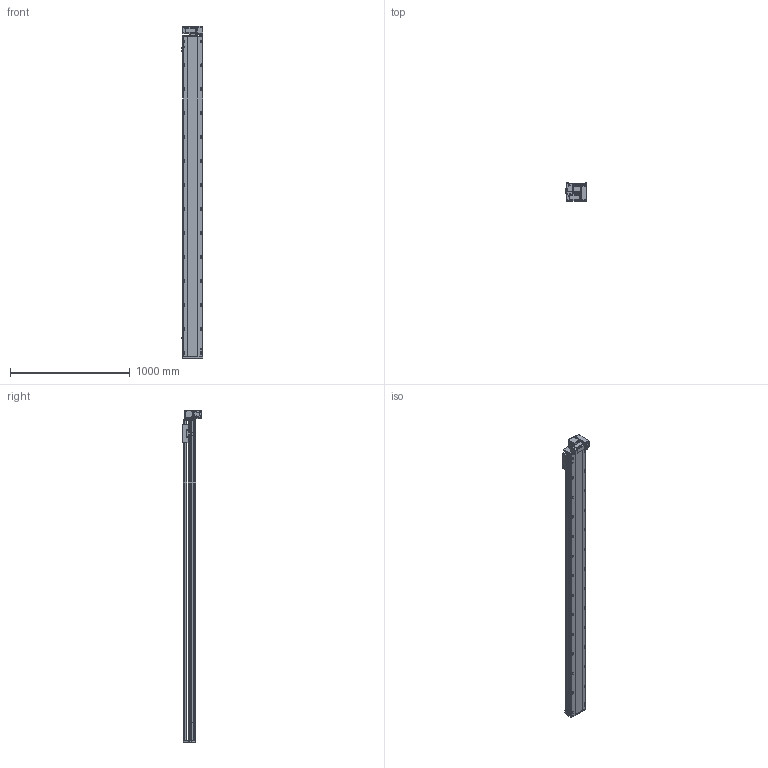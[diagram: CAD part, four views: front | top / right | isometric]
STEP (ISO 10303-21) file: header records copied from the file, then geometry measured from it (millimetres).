
FILE_DESCRIPTION (( 'STEP AP214' ), '1' );
FILE_NAME ('RTB17S-XX-2400-RM-M40-C4.STEP', '2025-12-11T08:29:23', ( '' ), ( '' ), 'SwSTEP 2.0', 'SolidWorks 2018', '' );
FILE_SCHEMA (( 'AUTOMOTIVE_DESIGN' ));
Length unit declared in the file: millimetre
Products named in the file (14): RTH13-BL-012覜茼え俋离^RTB17S-XX-XX-RM-M40-C4; OMRON EE-SX672 传感器^RTB17S-XX-XX-RM-M40-C4; RTB14-L-008-M20--萇儂啣^RTB17S-RM-々湍釱蚾饜-400W_RTB17S-XX-XX-RM-M40-C4; RTB17S-XX-2400-RM-M40-C4; RTB14-L-018P^RTB17S-RM-々湍釱蚾饜-400W_RTB17S-XX-XX-RM-M40-C4; RTB17S-L-007奻裔^RTB17S-XX-XX-RM-M40-C4; RTB17S-L-014-T20--々湍釱^RTB17S-RM-々湍釱蚾饜-400W_RTB17S-XX-XX-RM-M40-C4; 400W侜督萇儂^RTB17S-XX-XX-RM-M40-C4; RTB14-L-017P^RTB17S-RM-々湍釱蚾饜-400W_RTB17S-XX-XX-RM-M40-C4; RTB17S-L-004佪裝蹟譫蟀諉釱^RTB17S-XX-XX-RM-M40-C4; RTB14-L-005P--轴承塑胶压盖^RTB17S-RM-皮带座装配-400W_RTB17S-XX-XX-RM-M40-C4; RTB17-R-011菁釱^RTB17S-XX-XX-RM-M40-C4; RTB17S-L-001耜醱啣^RTB17S-XX-XX-RM-M40-C4; RTB17S-RM-々湍釱蚾饜-400W^RTB17S-XX-XX-RM-M40-C4
Assembly tree (16 placements, depth 3):
  RTB17S-XX-2400-RM-M40-C4
    RTB17-R-011菁釱^RTB17S-XX-XX-RM-M40-C4
    RTB17S-L-007奻裔^RTB17S-XX-XX-RM-M40-C4
    OMRON EE-SX672 传感器^RTB17S-XX-XX-RM-M40-C4  x3
    RTB17S-L-001耜醱啣^RTB17S-XX-XX-RM-M40-C4
    400W侜督萇儂^RTB17S-XX-XX-RM-M40-C4
    RTB17S-L-004佪裝蹟譫蟀諉釱^RTB17S-XX-XX-RM-M40-C4
    RTH13-BL-012覜茼え俋离^RTB17S-XX-XX-RM-M40-C4
    RTB17S-RM-々湍釱蚾饜-400W^RTB17S-XX-XX-RM-M40-C4
      RTB17S-L-014-T20--々湍釱^RTB17S-RM-々湍釱蚾饜-400W_RTB17S-XX-XX-RM-M40-C4
      RTB14-L-005P--轴承塑胶压盖^RTB17S-RM-皮带座装配-400W_RTB17S-XX-XX-RM-M40-C4
      RTB14-L-008-M20--萇儂啣^RTB17S-RM-々湍釱蚾饜-400W_RTB17S-XX-XX-RM-M40-C4
      RTB14-L-017P^RTB17S-RM-々湍釱蚾饜-400W_RTB17S-XX-XX-RM-M40-C4  x2
      RTB14-L-018P^RTB17S-RM-々湍釱蚾饜-400W_RTB17S-XX-XX-RM-M40-C4
Bounding box: 183.5 x 156.5 x 2772.5 mm (x, y, z)
Volume: 23793853.5 mm3; surface area: 2742173.5 mm2
Topology: 15 solids, 15 shells, 2317 faces, 6465 edges, 4221 vertices
Faces by surface type: plane 1082, cylinder 787, bspline 301, cone 139, torus 8
Entity records: 68009 total; most frequent: CARTESIAN_POINT 19270, ORIENTED_EDGE 9774, DIRECTION 9026, EDGE_CURVE 4887, VERTEX_POINT 3209, AXIS2_PLACEMENT_3D 3139, VECTOR 2748, LINE 2748
